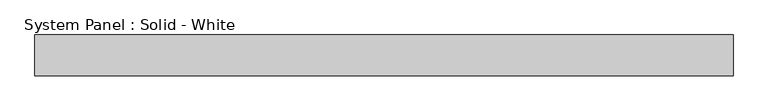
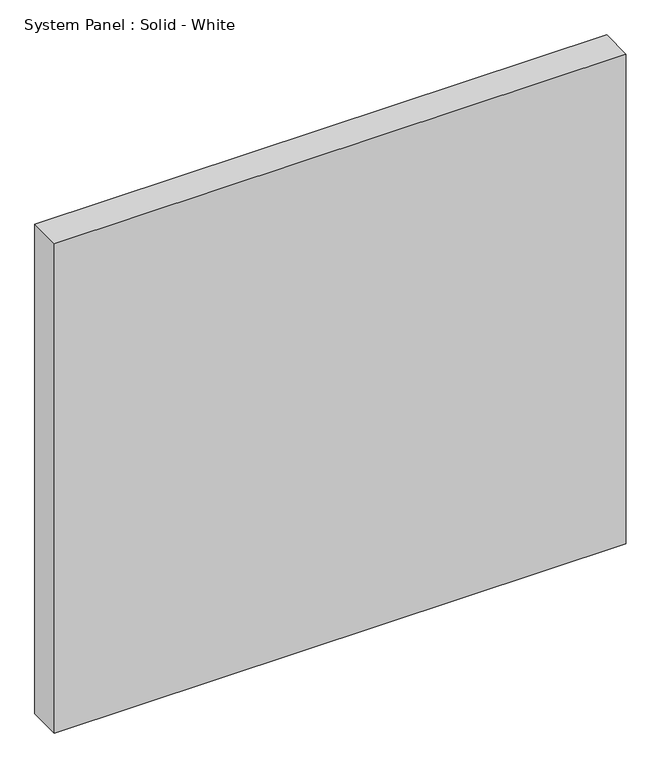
"""IFC4 building model written with IfcOpenShell, lengths in millimetres: plate geometry, System Panel : Solid - White."""

from ifc_helpers import new_model, si_unit, origin, origin_with_axes, place, context, project, spatial, polyline, outline, extrude, source, transform, mapped, element, save


def system_panel_solid_white_dc60b1bb(model_context):
    return source(origin(), model_context, "Body", "SweptSolid", [
        extrude(outline(polyline([(541.655, -44.45), (-541.655, -44.45), (-541.655, 19.05), (541.655, 19.05), (541.655, -44.45)])), origin_with_axes(), (0.0, 0.0, 1.0), 979.9108166),
    ])


if __name__ == "__main__":
    model = new_model("IFC4")
    model_context = context("Model", 3, world=origin())
    ifc_project = project(units=[si_unit("LENGTHUNIT", "METRE", prefix="MILLI")], contexts=[model_context])
    site = spatial("IfcSite", under=ifc_project)
    building = spatial("IfcBuilding", under=site)
    placement = place(None, origin())
    system_panel_solid_white_shape = system_panel_solid_white_dc60b1bb(model_context)
    element("IfcPlate", 1, ObjectType="System Panel : Solid - White", at=placement, inside=building, context=model_context, shape_type="MappedRepresentation", body=[
        mapped(system_panel_solid_white_shape, transform((0.0, 0.0, 0.0), x_axis=(1.0, 0.0, 0.0), y_axis=(0.0, 1.0, 0.0), z_axis=(0.0, 0.0, 1.0))),
    ])
    save(model, "model.ifc")
